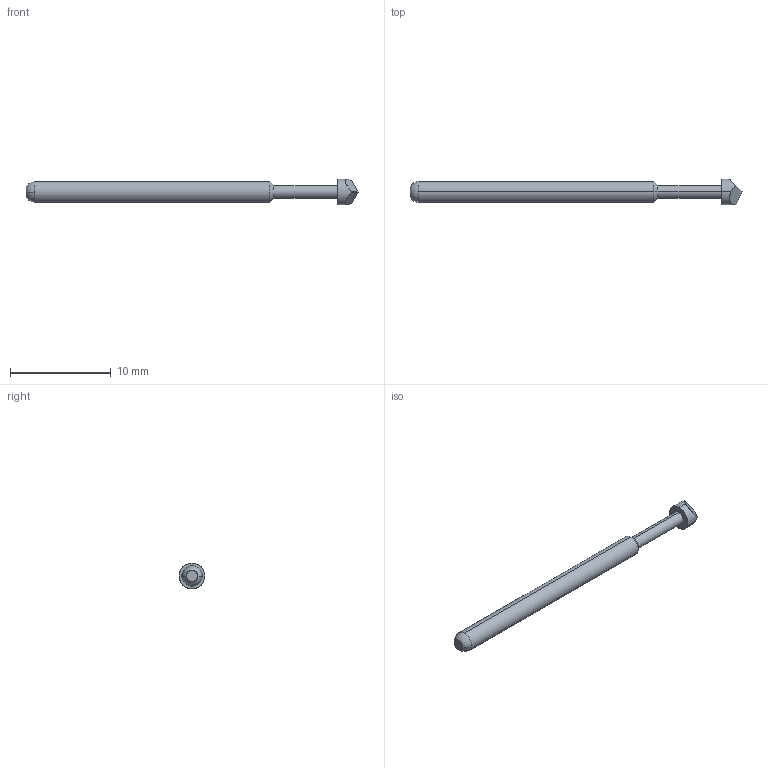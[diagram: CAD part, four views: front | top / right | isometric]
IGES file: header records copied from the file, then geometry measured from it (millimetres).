
Start section: SolidWorks IGES file using analytic representation for surfaces
Global section: file name: C:\Documents and Settings\mrumschlag\Desktop\changes\new\test\EPA-3T.IGS; native system: SolidWorks 2008; preprocessor: SolidWorks 2008; author: mrumschlag; date: 110414.162813; units: inch
Bounding box: 33.02 x 2.54 x 2.54 mm (x, y, z)
Surface area: 202.8 mm2 (no closed solid volume)
Topology: 0 solids, 0 shells, 15 faces, 160 edges, 160 vertices
Faces by surface type: revolution 10, bspline 5
